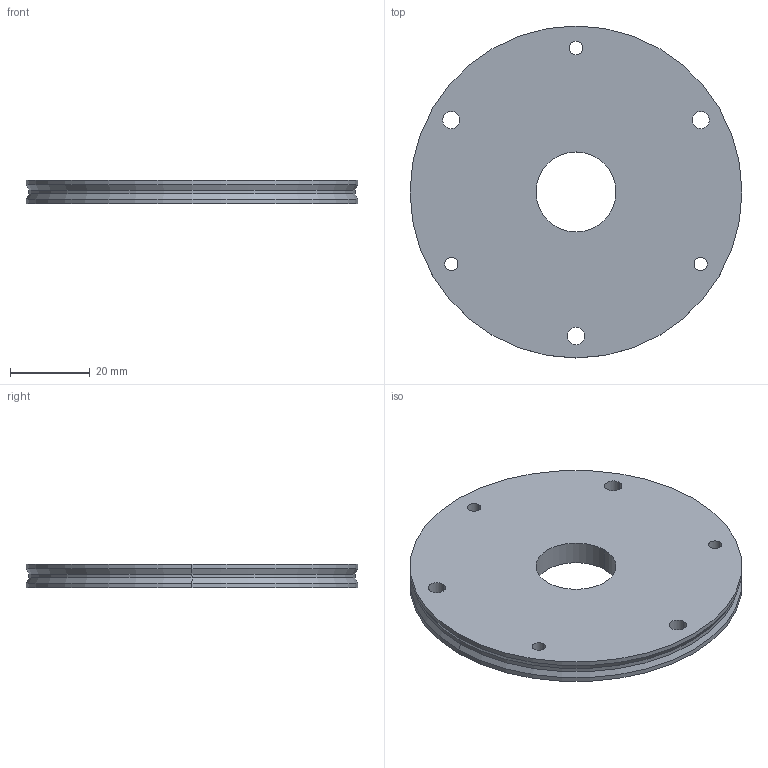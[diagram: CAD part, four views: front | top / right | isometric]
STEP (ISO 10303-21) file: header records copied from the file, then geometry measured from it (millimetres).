
FILE_DESCRIPTION (( 'STEP AP214' ), '1' );
FILE_NAME ('0238 Flansch.STEP', '2025-03-25T13:48:09', ( '' ), ( '' ), 'SwSTEP 2.0', 'SolidWorks 2022', '' );
FILE_SCHEMA (( 'AUTOMOTIVE_DESIGN' ));
Length unit declared in the file: millimetre
Products named in the file (1): 0238 Flansch
Bounding box: 83 x 83 x 6 mm (x, y, z)
Volume: 29738.3 mm3; surface area: 12504 mm2
Topology: 1 solids, 1 shells, 26 faces, 64 edges, 40 vertices
Faces by surface type: cylinder 20, cone 4, plane 2
Entity records: 912 total; most frequent: DIRECTION 158, CARTESIAN_POINT 131, ORIENTED_EDGE 128, AXIS2_PLACEMENT_3D 67, EDGE_CURVE 64, CIRCLE 40, EDGE_LOOP 40, VERTEX_POINT 40
